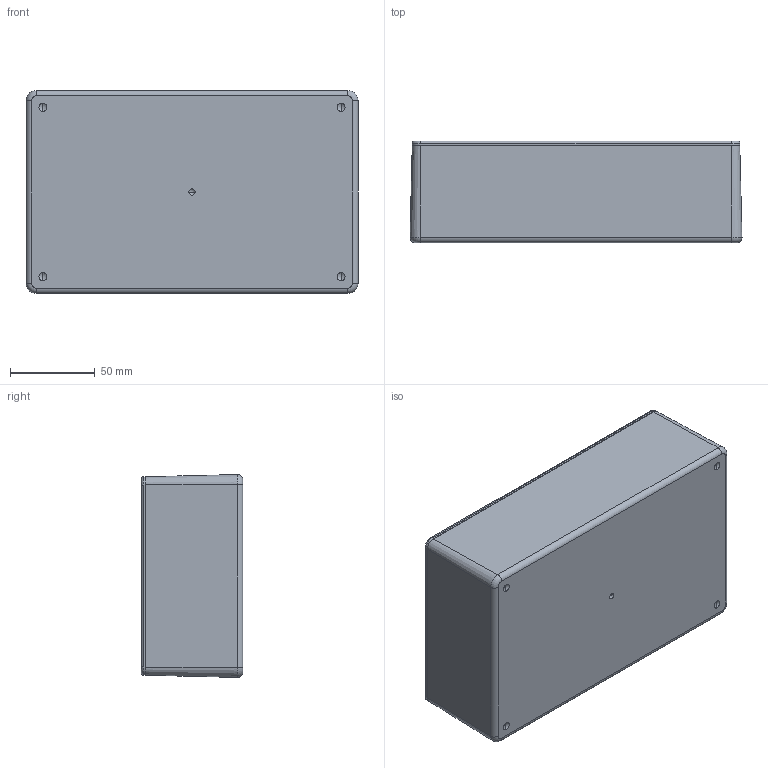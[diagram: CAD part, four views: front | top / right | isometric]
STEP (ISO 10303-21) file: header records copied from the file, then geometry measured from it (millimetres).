
FILE_DESCRIPTION (( 'STEP AP214' ), '1' );
FILE_NAME ('DC-47PMBYT_ASS''Y.STEP', '2010-08-23T12:14:49', ( '' ), ( '' ), 'SwSTEP 2.0', 'SolidWorks 2010', '' );
FILE_SCHEMA (( 'AUTOMOTIVE_DESIGN' ));
Length unit declared in the file: inch
Products named in the file (4): DC-47C_DC-47C-T; DC-47B_DC-47BPMBY; SCREWS-DC-BR; DC-47PMBYT_ASS''Y
Assembly tree (6 placements, depth 2):
  DC-47PMBYT_ASS''Y
    DC-47B_DC-47BPMBY
    SCREWS-DC-BR  x4
    DC-47C_DC-47C-T
Bounding box: 196.33 x 60.07 x 120 mm (x, y, z)
Volume: 255654.5 mm3; surface area: 170288.3 mm2
Topology: 10 solids, 10 shells, 438 faces, 1030 edges, 662 vertices
Faces by surface type: plane 166, cylinder 156, cone 80, torus 16, sphere 12, bspline 8
Entity records: 11425 total; most frequent: CARTESIAN_POINT 2019, DIRECTION 1878, ORIENTED_EDGE 1628, EDGE_CURVE 814, AXIS2_PLACEMENT_3D 759, VERTEX_POINT 524, EDGE_LOOP 420, CIRCLE 398
